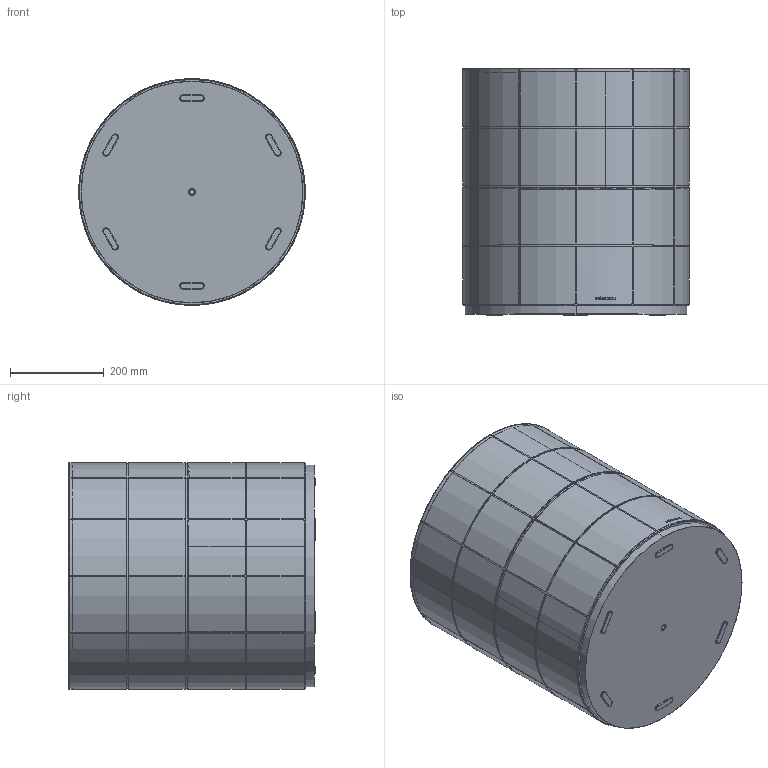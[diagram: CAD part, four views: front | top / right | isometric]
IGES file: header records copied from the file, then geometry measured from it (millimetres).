
Start section: SolidWorks IGES file using analytic representation for surfaces
Global section: file name: \\UTENTI\Dati Utenti\Tecnico\DC\2D - 3D per sito\3D\DeCastelli-3D-Pandora 52-2 Drawers.igs; native system: SolidWorks 2022; preprocessor: SolidWorks 2022; author: maria; date: 240723.165411; units: millimetre
Bounding box: 482.87 x 525.98 x 482.87 mm (x, y, z)
Surface area: 2272092.7 mm2 (no closed solid volume)
Topology: 0 solids, 0 shells, 294 faces, 6056 edges, 6056 vertices
Faces by surface type: bspline 160, revolution 134
